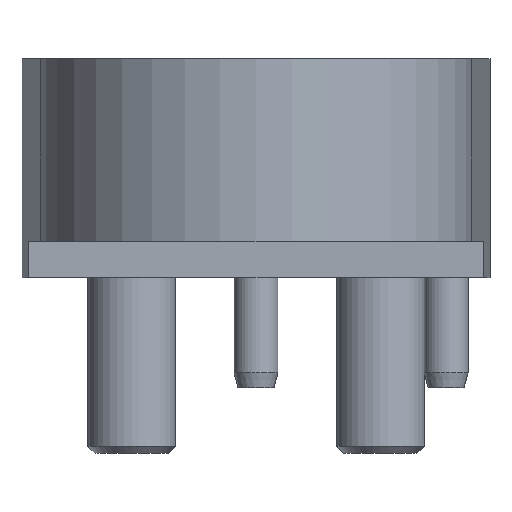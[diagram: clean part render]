
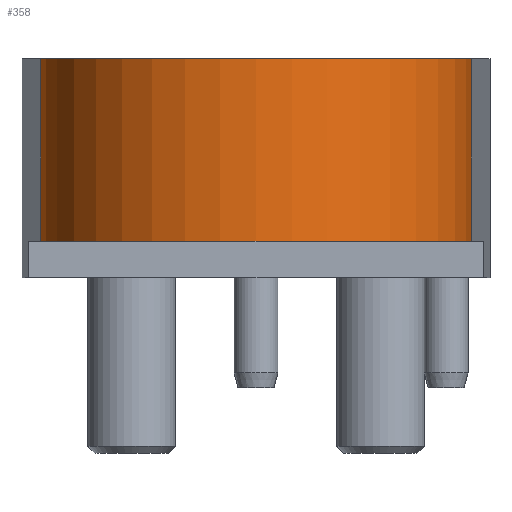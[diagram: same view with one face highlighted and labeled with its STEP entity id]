
A CAD part, left-side view. The second image highlights one B-rep face of the part: STEP entity #358.
In plain terms, the highlighted cylindrical face has radius 29.5 mm (diameter 59 mm), a partial arc.
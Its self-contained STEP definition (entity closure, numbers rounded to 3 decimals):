
#185=CYLINDRICAL_SURFACE('',#2260,29.5);
#238=CIRCLE('',#2258,29.5);
#239=CIRCLE('',#2259,29.5);
#358=ADVANCED_FACE('',(#553),#185,.T.);
#553=FACE_OUTER_BOUND('',#671,.T.);
#671=EDGE_LOOP('',(#865,#866,#867,#868));
#865=ORIENTED_EDGE('',*,*,#1636,.F.);
#866=ORIENTED_EDGE('',*,*,#1635,.T.);
#867=ORIENTED_EDGE('',*,*,#1637,.F.);
#868=ORIENTED_EDGE('',*,*,#1628,.F.);
#1431=VERTEX_POINT('',#3234);
#1432=VERTEX_POINT('',#3236);
#1434=VERTEX_POINT('',#3242);
#1436=VERTEX_POINT('',#3247);
#1628=EDGE_CURVE('',#1431,#1432,#1912,.T.);
#1635=EDGE_CURVE('',#1434,#1436,#1919,.T.);
#1636=EDGE_CURVE('',#1434,#1431,#238,.T.);
#1637=EDGE_CURVE('',#1432,#1436,#239,.T.);
#1912=LINE('',#3235,#2082);
#1919=LINE('',#3248,#2089);
#2082=VECTOR('',#2552,1.);
#2089=VECTOR('',#2561,1.);
#2258=AXIS2_PLACEMENT_3D('',#3250,#2564,#2565);
#2259=AXIS2_PLACEMENT_3D('',#3251,#2566,#2567);
#2260=AXIS2_PLACEMENT_3D('',#3252,#2568,#2569);
#2552=DIRECTION('',(0.,0.,1.));
#2561=DIRECTION('',(0.,0.,1.));
#2564=DIRECTION('',(0.,0.,-1.));
#2565=DIRECTION('',(1.,0.,0.));
#2566=DIRECTION('',(0.,0.,1.));
#2567=DIRECTION('',(1.,0.,0.));
#2568=DIRECTION('',(0.,0.,1.));
#2569=DIRECTION('',(-1.,0.,0.));
#3234=CARTESIAN_POINT('',(-1.989,29.433,5.));
#3235=CARTESIAN_POINT('',(-1.989,29.433,0.));
#3236=CARTESIAN_POINT('',(-1.989,29.433,30.));
#3242=CARTESIAN_POINT('',(-1.989,-29.433,5.));
#3247=CARTESIAN_POINT('',(-1.989,-29.433,30.));
#3248=CARTESIAN_POINT('',(-1.989,-29.433,0.));
#3250=CARTESIAN_POINT('',(0.,0.,5.));
#3251=CARTESIAN_POINT('',(0.,0.,30.));
#3252=CARTESIAN_POINT('',(0.,0.,0.));
